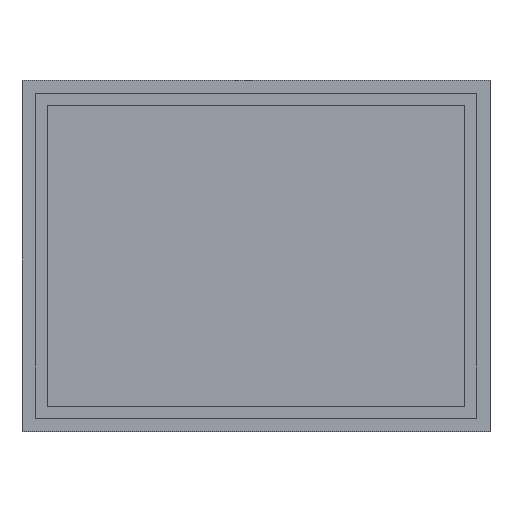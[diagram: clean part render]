
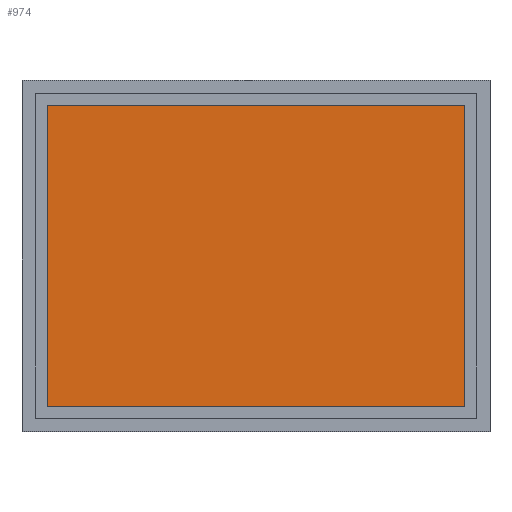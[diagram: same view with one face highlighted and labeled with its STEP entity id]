
A CAD part, top view. The second image highlights one B-rep face of the part: STEP entity #974.
In plain terms, the highlighted planar face has unit normal (0, 0, 1).
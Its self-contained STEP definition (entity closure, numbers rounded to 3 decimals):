
#687 = PLANE('',#688);
#688 = AXIS2_PLACEMENT_3D('',#689,#690,#691);
#689 = CARTESIAN_POINT('',(-35.7,-25.7,2.));
#690 = DIRECTION('',(0.,1.,0.));
#691 = DIRECTION('',(0.,0.,1.));
#713 = PLANE('',#714);
#714 = AXIS2_PLACEMENT_3D('',#715,#716,#717);
#715 = CARTESIAN_POINT('',(-35.7,-25.7,2.));
#716 = DIRECTION('',(1.,0.,0.));
#717 = DIRECTION('',(0.,0.,1.));
#739 = PLANE('',#740);
#740 = AXIS2_PLACEMENT_3D('',#741,#742,#743);
#741 = CARTESIAN_POINT('',(-35.7,25.7,2.));
#742 = DIRECTION('',(0.,1.,0.));
#743 = DIRECTION('',(0.,0.,1.));
#763 = PLANE('',#764);
#764 = AXIS2_PLACEMENT_3D('',#765,#766,#767);
#765 = CARTESIAN_POINT('',(35.7,-25.7,2.));
#766 = DIRECTION('',(1.,0.,0.));
#767 = DIRECTION('',(0.,0.,1.));
#778 = VERTEX_POINT('',#779);
#779 = CARTESIAN_POINT('',(35.7,-25.7,2.));
#800 = EDGE_CURVE('',#801,#778,#803,.T.);
#801 = VERTEX_POINT('',#802);
#802 = CARTESIAN_POINT('',(-35.7,-25.7,2.));
#803 = SURFACE_CURVE('',#804,(#808,#815),.PCURVE_S1.);
#804 = LINE('',#805,#806);
#805 = CARTESIAN_POINT('',(-35.7,-25.7,2.));
#806 = VECTOR('',#807,1.);
#807 = DIRECTION('',(1.,0.,0.));
#808 = PCURVE('',#687,#809);
#809 = DEFINITIONAL_REPRESENTATION('',(#810),#814);
#810 = LINE('',#811,#812);
#811 = CARTESIAN_POINT('',(0.,0.));
#812 = VECTOR('',#813,1.);
#813 = DIRECTION('',(0.,1.));
#814 = ( GEOMETRIC_REPRESENTATION_CONTEXT(2) 
PARAMETRIC_REPRESENTATION_CONTEXT() REPRESENTATION_CONTEXT('2D SPACE',''
  ) );
#815 = PCURVE('',#816,#821);
#816 = PLANE('',#817);
#817 = AXIS2_PLACEMENT_3D('',#818,#819,#820);
#818 = CARTESIAN_POINT('',(-40.,-30.,2.));
#819 = DIRECTION('',(0.,0.,1.));
#820 = DIRECTION('',(1.,0.,0.));
#821 = DEFINITIONAL_REPRESENTATION('',(#822),#826);
#822 = LINE('',#823,#824);
#823 = CARTESIAN_POINT('',(4.3,4.3));
#824 = VECTOR('',#825,1.);
#825 = DIRECTION('',(1.,0.));
#826 = ( GEOMETRIC_REPRESENTATION_CONTEXT(2) 
PARAMETRIC_REPRESENTATION_CONTEXT() REPRESENTATION_CONTEXT('2D SPACE',''
  ) );
#854 = EDGE_CURVE('',#778,#855,#857,.T.);
#855 = VERTEX_POINT('',#856);
#856 = CARTESIAN_POINT('',(35.7,25.7,2.));
#857 = SURFACE_CURVE('',#858,(#862,#869),.PCURVE_S1.);
#858 = LINE('',#859,#860);
#859 = CARTESIAN_POINT('',(35.7,-25.7,2.));
#860 = VECTOR('',#861,1.);
#861 = DIRECTION('',(0.,1.,0.));
#862 = PCURVE('',#763,#863);
#863 = DEFINITIONAL_REPRESENTATION('',(#864),#868);
#864 = LINE('',#865,#866);
#865 = CARTESIAN_POINT('',(0.,0.));
#866 = VECTOR('',#867,1.);
#867 = DIRECTION('',(0.,-1.));
#868 = ( GEOMETRIC_REPRESENTATION_CONTEXT(2) 
PARAMETRIC_REPRESENTATION_CONTEXT() REPRESENTATION_CONTEXT('2D SPACE',''
  ) );
#869 = PCURVE('',#816,#870);
#870 = DEFINITIONAL_REPRESENTATION('',(#871),#875);
#871 = LINE('',#872,#873);
#872 = CARTESIAN_POINT('',(75.7,4.3));
#873 = VECTOR('',#874,1.);
#874 = DIRECTION('',(0.,1.));
#875 = ( GEOMETRIC_REPRESENTATION_CONTEXT(2) 
PARAMETRIC_REPRESENTATION_CONTEXT() REPRESENTATION_CONTEXT('2D SPACE',''
  ) );
#903 = EDGE_CURVE('',#904,#855,#906,.T.);
#904 = VERTEX_POINT('',#905);
#905 = CARTESIAN_POINT('',(-35.7,25.7,2.));
#906 = SURFACE_CURVE('',#907,(#911,#918),.PCURVE_S1.);
#907 = LINE('',#908,#909);
#908 = CARTESIAN_POINT('',(-35.7,25.7,2.));
#909 = VECTOR('',#910,1.);
#910 = DIRECTION('',(1.,0.,0.));
#911 = PCURVE('',#739,#912);
#912 = DEFINITIONAL_REPRESENTATION('',(#913),#917);
#913 = LINE('',#914,#915);
#914 = CARTESIAN_POINT('',(0.,0.));
#915 = VECTOR('',#916,1.);
#916 = DIRECTION('',(0.,1.));
#917 = ( GEOMETRIC_REPRESENTATION_CONTEXT(2) 
PARAMETRIC_REPRESENTATION_CONTEXT() REPRESENTATION_CONTEXT('2D SPACE',''
  ) );
#918 = PCURVE('',#816,#919);
#919 = DEFINITIONAL_REPRESENTATION('',(#920),#924);
#920 = LINE('',#921,#922);
#921 = CARTESIAN_POINT('',(4.3,55.7));
#922 = VECTOR('',#923,1.);
#923 = DIRECTION('',(1.,0.));
#924 = ( GEOMETRIC_REPRESENTATION_CONTEXT(2) 
PARAMETRIC_REPRESENTATION_CONTEXT() REPRESENTATION_CONTEXT('2D SPACE',''
  ) );
#952 = EDGE_CURVE('',#801,#904,#953,.T.);
#953 = SURFACE_CURVE('',#954,(#958,#965),.PCURVE_S1.);
#954 = LINE('',#955,#956);
#955 = CARTESIAN_POINT('',(-35.7,-25.7,2.));
#956 = VECTOR('',#957,1.);
#957 = DIRECTION('',(0.,1.,0.));
#958 = PCURVE('',#713,#959);
#959 = DEFINITIONAL_REPRESENTATION('',(#960),#964);
#960 = LINE('',#961,#962);
#961 = CARTESIAN_POINT('',(0.,0.));
#962 = VECTOR('',#963,1.);
#963 = DIRECTION('',(0.,-1.));
#964 = ( GEOMETRIC_REPRESENTATION_CONTEXT(2) 
PARAMETRIC_REPRESENTATION_CONTEXT() REPRESENTATION_CONTEXT('2D SPACE',''
  ) );
#965 = PCURVE('',#816,#966);
#966 = DEFINITIONAL_REPRESENTATION('',(#967),#971);
#967 = LINE('',#968,#969);
#968 = CARTESIAN_POINT('',(4.3,4.3));
#969 = VECTOR('',#970,1.);
#970 = DIRECTION('',(0.,1.));
#971 = ( GEOMETRIC_REPRESENTATION_CONTEXT(2) 
PARAMETRIC_REPRESENTATION_CONTEXT() REPRESENTATION_CONTEXT('2D SPACE',''
  ) );
#974 = ADVANCED_FACE('',(#975),#816,.T.);
#975 = FACE_BOUND('',#976,.T.);
#976 = EDGE_LOOP('',(#977,#978,#979,#980));
#977 = ORIENTED_EDGE('',*,*,#903,.F.);
#978 = ORIENTED_EDGE('',*,*,#952,.F.);
#979 = ORIENTED_EDGE('',*,*,#800,.T.);
#980 = ORIENTED_EDGE('',*,*,#854,.T.);
